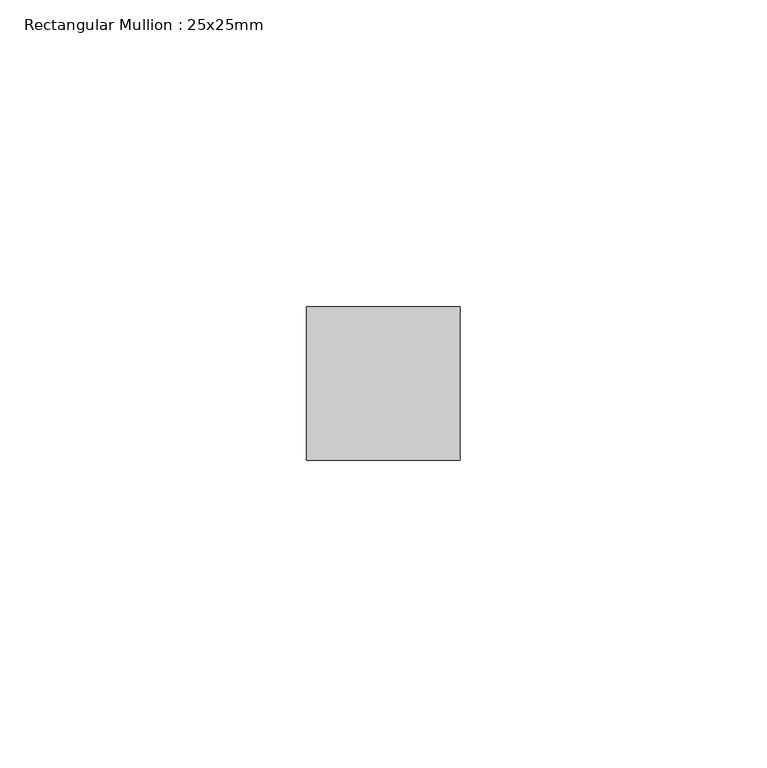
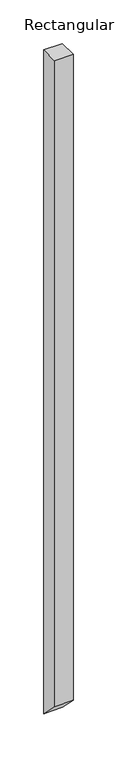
"""IFC4 building model written with IfcOpenShell, lengths in millimetres: member geometry, Rectangular Mullion : 25x25mm."""

from ifc_helpers import new_model, si_unit, frame, origin, place, context, project, spatial, polyline, outline, extrude, source, transform, mapped, element, save


def rectangular_mullion_25x25mm_b2138df4(model_context):
    return source(origin(), model_context, "Body", "SweptSolid", [
        extrude(outline(polyline([(-0.5, 0.0), (24.5, 0.0), (24.5, -931.2703315), (-0.5, -906.2703315), (-0.5, 0.0)])), frame((-25.0, 0.0, 0.0), z_axis=(1.0, 0.0, 0.0), x_axis=(0.0, 1.0, 0.0)), (0.0, 0.0, 1.0), 25.0),
    ])


if __name__ == "__main__":
    model = new_model("IFC4")
    model_context = context("Model", 3, world=origin())
    ifc_project = project(units=[si_unit("LENGTHUNIT", "METRE", prefix="MILLI")], contexts=[model_context])
    site = spatial("IfcSite", under=ifc_project)
    building = spatial("IfcBuilding", under=site)
    placement = place(None, origin())
    rectangular_mullion_25x25mm_shape = rectangular_mullion_25x25mm_b2138df4(model_context)
    element("IfcMember", 1, ObjectType="Rectangular Mullion : 25x25mm", at=placement, inside=building, context=model_context, shape_type="MappedRepresentation", body=[
        mapped(rectangular_mullion_25x25mm_shape, transform((0.0, 0.0, 0.0), x_axis=(1.0, 0.0, 0.0), y_axis=(0.0, 1.0, 0.0), z_axis=(0.0, 0.0, 1.0))),
    ])
    save(model, "model.ifc")
